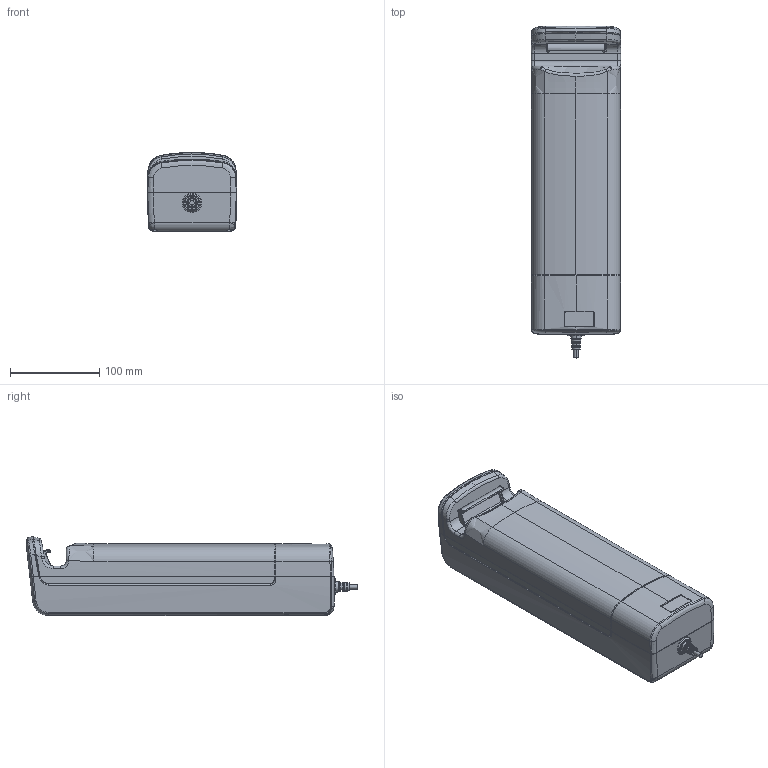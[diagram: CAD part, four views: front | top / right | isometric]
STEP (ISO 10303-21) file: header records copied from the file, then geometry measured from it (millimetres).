
FILE_DESCRIPTION (( 'STEP AP214' ), '1' );
FILE_NAME ('TBB7-1.STEP', '2016-01-06T07:17:11', ( '' ), ( '' ), 'SwSTEP 2.0', 'SolidWorks 2015', '' );
FILE_SCHEMA (( 'AUTOMOTIVE_DESIGN' ));
Length unit declared in the file: millimetre
Products named in the file (1): TBB7-1
Bounding box: 100 x 371.27 x 88.37 mm (x, y, z)
Volume: 2539623.4 mm3; surface area: 273841.2 mm2
Topology: 7 solids, 7 shells, 697 faces, 1768 edges, 1102 vertices
Faces by surface type: cylinder 210, plane 207, bspline 144, cone 66, torus 60, sphere 10
Entity records: 38904 total; most frequent: CARTESIAN_POINT 15526, ORIENTED_EDGE 3520, DIRECTION 2966, EDGE_CURVE 1760, AXIS2_PLACEMENT_3D 1162, VERTEX_POINT 1102, EDGE_LOOP 722, UNCERTAINTY_MEASURE_WITH_UNIT 706
